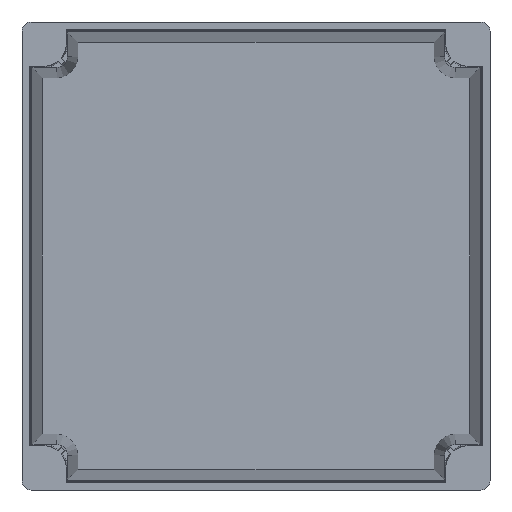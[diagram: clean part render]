
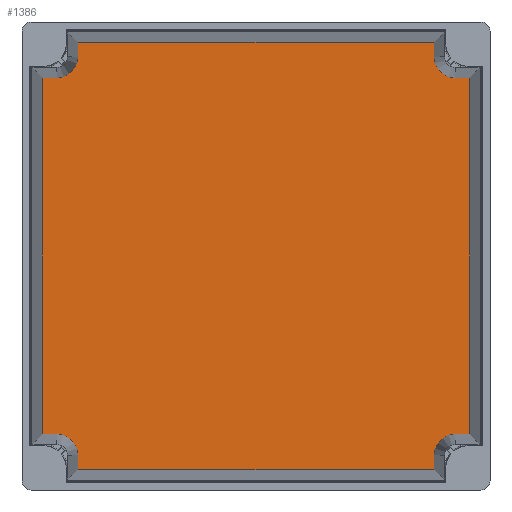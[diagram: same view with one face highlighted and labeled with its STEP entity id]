
A CAD part, front view. The second image highlights one B-rep face of the part: STEP entity #1386.
In plain terms, the highlighted planar face has unit normal (0, -1, 0).
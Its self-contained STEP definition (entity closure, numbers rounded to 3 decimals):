
#1315 = ORIENTED_EDGE ( 'NONE', *, *, #1316, .T. ) ;
#1316 = EDGE_CURVE ( 'NONE', #1400, #1335, #5064, .T. ) ;
#1335 = VERTEX_POINT ( 'NONE', #4300 ) ;
#1336 = ORIENTED_EDGE ( 'NONE', *, *, #1337, .T. ) ;
#1337 = EDGE_CURVE ( 'NONE', #1335, #7466, #4455, .T. ) ;
#1379 = EDGE_CURVE ( 'NONE', #1409, #1380, #4364, .T. ) ;
#1380 = VERTEX_POINT ( 'NONE', #4360 ) ;
#1381 = ORIENTED_EDGE ( 'NONE', *, *, #1382, .T. ) ;
#1382 = EDGE_CURVE ( 'NONE', #1380, #1400, #4359, .T. ) ;
#1386 = ADVANCED_FACE ( 'NONE', ( #4355 ), #4353, .F. ) ;
#1390 = VERTEX_POINT ( 'NONE', #4245 ) ;
#1391 = ORIENTED_EDGE ( 'NONE', *, *, #1429, .T. ) ;
#1392 = VERTEX_POINT ( 'NONE', #4244 ) ;
#1395 = ORIENTED_EDGE ( 'NONE', *, *, #1396, .T. ) ;
#1396 = EDGE_CURVE ( 'NONE', #1390, #1472, #4239, .T. ) ;
#1397 = ORIENTED_EDGE ( 'NONE', *, *, #1398, .T. ) ;
#1398 = EDGE_CURVE ( 'NONE', #1424, #1390, #4234, .T. ) ;
#1399 = EDGE_LOOP ( 'NONE', ( #1315, #1336, #1422, #1419, #1421, #1391, #1420, #1397, #1395, #1473, #1416, #1412, #1405, #1408, #1438, #1381 ) ) ;
#1400 = VERTEX_POINT ( 'NONE', #4230 ) ;
#1401 = EDGE_CURVE ( 'NONE', #1436, #1402, #4229, .T. ) ;
#1402 = VERTEX_POINT ( 'NONE', #4224 ) ;
#1405 = ORIENTED_EDGE ( 'NONE', *, *, #1406, .T. ) ;
#1406 = EDGE_CURVE ( 'NONE', #1414, #1407, #4296, .T. ) ;
#1407 = VERTEX_POINT ( 'NONE', #4292 ) ;
#1408 = ORIENTED_EDGE ( 'NONE', *, *, #1437, .T. ) ;
#1409 = VERTEX_POINT ( 'NONE', #4291 ) ;
#1410 = EDGE_CURVE ( 'NONE', #7466, #1411, #4290, .T. ) ;
#1411 = VERTEX_POINT ( 'NONE', #4286 ) ;
#1412 = ORIENTED_EDGE ( 'NONE', *, *, #1413, .T. ) ;
#1413 = EDGE_CURVE ( 'NONE', #1418, #1414, #4285, .T. ) ;
#1414 = VERTEX_POINT ( 'NONE', #4281 ) ;
#1415 = VERTEX_POINT ( 'NONE', #4280 ) ;
#1416 = ORIENTED_EDGE ( 'NONE', *, *, #1417, .T. ) ;
#1417 = EDGE_CURVE ( 'NONE', #1415, #1418, #4279, .T. ) ;
#1418 = VERTEX_POINT ( 'NONE', #4275 ) ;
#1419 = ORIENTED_EDGE ( 'NONE', *, *, #1435, .T. ) ;
#1420 = ORIENTED_EDGE ( 'NONE', *, *, #1423, .T. ) ;
#1421 = ORIENTED_EDGE ( 'NONE', *, *, #1401, .T. ) ;
#1422 = ORIENTED_EDGE ( 'NONE', *, *, #1410, .T. ) ;
#1423 = EDGE_CURVE ( 'NONE', #1392, #1424, #4274, .T. ) ;
#1424 = VERTEX_POINT ( 'NONE', #4270 ) ;
#1429 = EDGE_CURVE ( 'NONE', #1402, #1392, #4265, .T. ) ;
#1435 = EDGE_CURVE ( 'NONE', #1411, #1436, #4255, .T. ) ;
#1436 = VERTEX_POINT ( 'NONE', #4251 ) ;
#1437 = EDGE_CURVE ( 'NONE', #1407, #1409, #4428, .T. ) ;
#1438 = ORIENTED_EDGE ( 'NONE', *, *, #1379, .T. ) ;
#1472 = VERTEX_POINT ( 'NONE', #4376 ) ;
#1473 = ORIENTED_EDGE ( 'NONE', *, *, #1474, .T. ) ;
#1474 = EDGE_CURVE ( 'NONE', #1472, #1415, #4375, .T. ) ;
#3413 = CARTESIAN_POINT ( 'NONE',  ( 68.562, 99.8, 82.212 ) ) ;
#4223 = CARTESIAN_POINT ( 'NONE',  ( 76.634, 99.8, -76.634 ) ) ;
#4224 = CARTESIAN_POINT ( 'NONE',  ( -76.634, 99.8, 68.562 ) ) ;
#4225 = DIRECTION ( 'NONE',  ( 0., 0., 1. ) ) ;
#4226 = DIRECTION ( 'NONE',  ( 0., 1., 0. ) ) ;
#4227 = CARTESIAN_POINT ( 'NONE',  ( -76.634, 99.8, 76.634 ) ) ;
#4228 = AXIS2_PLACEMENT_3D ( 'NONE', #4227, #4226, #4225 ) ;
#4229 = CIRCLE ( 'NONE', #4228, 8.072 ) ;
#4230 = CARTESIAN_POINT ( 'NONE',  ( 76.634, 99.8, 68.562 ) ) ;
#4231 = DIRECTION ( 'NONE',  ( 1., 0., 0. ) ) ;
#4232 = VECTOR ( 'NONE', #4231, 1000. ) ;
#4233 = CARTESIAN_POINT ( 'NONE',  ( -86.179, 99.8, -68.562 ) ) ;
#4234 = LINE ( 'NONE', #4233, #4232 ) ;
#4235 = DIRECTION ( 'NONE',  ( 0., 0., 1. ) ) ;
#4236 = DIRECTION ( 'NONE',  ( 0., 1., 0. ) ) ;
#4237 = CARTESIAN_POINT ( 'NONE',  ( -76.634, 99.8, -76.634 ) ) ;
#4238 = AXIS2_PLACEMENT_3D ( 'NONE', #4237, #4236, #4235 ) ;
#4239 = CIRCLE ( 'NONE', #4238, 8.072 ) ;
#4244 = CARTESIAN_POINT ( 'NONE',  ( -82.212, 99.8, 68.562 ) ) ;
#4245 = CARTESIAN_POINT ( 'NONE',  ( -76.634, 99.8, -68.562 ) ) ;
#4251 = CARTESIAN_POINT ( 'NONE',  ( -68.562, 99.8, 76.634 ) ) ;
#4252 = DIRECTION ( 'NONE',  ( 0., 0., -1. ) ) ;
#4253 = VECTOR ( 'NONE', #4252, 1000. ) ;
#4254 = CARTESIAN_POINT ( 'NONE',  ( -68.562, 99.8, 76.634 ) ) ;
#4255 = LINE ( 'NONE', #4254, #4253 ) ;
#4262 = DIRECTION ( 'NONE',  ( -1., 0., 0. ) ) ;
#4263 = VECTOR ( 'NONE', #4262, 1000. ) ;
#4264 = CARTESIAN_POINT ( 'NONE',  ( -86.179, 99.8, 68.562 ) ) ;
#4265 = LINE ( 'NONE', #4264, #4263 ) ;
#4270 = CARTESIAN_POINT ( 'NONE',  ( -82.212, 99.8, -68.562 ) ) ;
#4271 = DIRECTION ( 'NONE',  ( 0., 0., -1. ) ) ;
#4272 = VECTOR ( 'NONE', #4271, 1000. ) ;
#4273 = CARTESIAN_POINT ( 'NONE',  ( -82.212, 99.8, -72.529 ) ) ;
#4274 = LINE ( 'NONE', #4273, #4272 ) ;
#4275 = CARTESIAN_POINT ( 'NONE',  ( 68.562, 99.8, -82.212 ) ) ;
#4276 = DIRECTION ( 'NONE',  ( 1., 0., 0. ) ) ;
#4277 = VECTOR ( 'NONE', #4276, 1000. ) ;
#4278 = CARTESIAN_POINT ( 'NONE',  ( 72.529, 99.8, -82.212 ) ) ;
#4279 = LINE ( 'NONE', #4278, #4277 ) ;
#4280 = CARTESIAN_POINT ( 'NONE',  ( -68.562, 99.8, -82.212 ) ) ;
#4281 = CARTESIAN_POINT ( 'NONE',  ( 68.562, 99.8, -76.634 ) ) ;
#4282 = DIRECTION ( 'NONE',  ( 0., 0., 1. ) ) ;
#4283 = VECTOR ( 'NONE', #4282, 1000. ) ;
#4284 = CARTESIAN_POINT ( 'NONE',  ( 68.562, 99.8, -76.634 ) ) ;
#4285 = LINE ( 'NONE', #4284, #4283 ) ;
#4286 = CARTESIAN_POINT ( 'NONE',  ( -68.562, 99.8, 82.212 ) ) ;
#4287 = DIRECTION ( 'NONE',  ( -1., 0., 0. ) ) ;
#4288 = VECTOR ( 'NONE', #4287, 1000. ) ;
#4289 = CARTESIAN_POINT ( 'NONE',  ( 72.529, 99.8, 82.212 ) ) ;
#4290 = LINE ( 'NONE', #4289, #4288 ) ;
#4291 = CARTESIAN_POINT ( 'NONE',  ( 82.212, 99.8, -68.562 ) ) ;
#4292 = CARTESIAN_POINT ( 'NONE',  ( 76.634, 99.8, -68.562 ) ) ;
#4293 = DIRECTION ( 'NONE',  ( 0., 0., 1. ) ) ;
#4294 = DIRECTION ( 'NONE',  ( 0., 1., 0. ) ) ;
#4295 = AXIS2_PLACEMENT_3D ( 'NONE', #4223, #4294, #4293 ) ;
#4296 = CIRCLE ( 'NONE', #4295, 8.072 ) ;
#4300 = CARTESIAN_POINT ( 'NONE',  ( 68.562, 99.8, 76.634 ) ) ;
#4349 = DIRECTION ( 'NONE',  ( 0., 0., 1. ) ) ;
#4350 = DIRECTION ( 'NONE',  ( 0., 1., 0. ) ) ;
#4351 = CARTESIAN_POINT ( 'NONE',  ( -81.75, 99.8, -81.75 ) ) ;
#4352 = AXIS2_PLACEMENT_3D ( 'NONE', #4351, #4350, #4349 ) ;
#4353 = PLANE ( 'NONE',  #4352 ) ;
#4355 = FACE_OUTER_BOUND ( 'NONE', #1399, .T. ) ;
#4356 = DIRECTION ( 'NONE',  ( -1., 0., 0. ) ) ;
#4357 = VECTOR ( 'NONE', #4356, 1000. ) ;
#4358 = CARTESIAN_POINT ( 'NONE',  ( 86.179, 99.8, 68.562 ) ) ;
#4359 = LINE ( 'NONE', #4358, #4357 ) ;
#4360 = CARTESIAN_POINT ( 'NONE',  ( 82.212, 99.8, 68.562 ) ) ;
#4361 = DIRECTION ( 'NONE',  ( 0., 0., 1. ) ) ;
#4362 = VECTOR ( 'NONE', #4361, 1000. ) ;
#4363 = CARTESIAN_POINT ( 'NONE',  ( 82.212, 99.8, -72.529 ) ) ;
#4364 = LINE ( 'NONE', #4363, #4362 ) ;
#4372 = DIRECTION ( 'NONE',  ( 0., 0., -1. ) ) ;
#4373 = VECTOR ( 'NONE', #4372, 1000. ) ;
#4374 = CARTESIAN_POINT ( 'NONE',  ( -68.562, 99.8, -76.634 ) ) ;
#4375 = LINE ( 'NONE', #4374, #4373 ) ;
#4376 = CARTESIAN_POINT ( 'NONE',  ( -68.562, 99.8, -76.634 ) ) ;
#4425 = DIRECTION ( 'NONE',  ( 1., 0., 0. ) ) ;
#4426 = VECTOR ( 'NONE', #4425, 1000. ) ;
#4427 = CARTESIAN_POINT ( 'NONE',  ( 86.179, 99.8, -68.562 ) ) ;
#4428 = LINE ( 'NONE', #4427, #4426 ) ;
#4452 = DIRECTION ( 'NONE',  ( 0., 0., 1. ) ) ;
#4453 = VECTOR ( 'NONE', #4452, 1000. ) ;
#4454 = CARTESIAN_POINT ( 'NONE',  ( 68.562, 99.8, 76.634 ) ) ;
#4455 = LINE ( 'NONE', #4454, #4453 ) ;
#5063 = AXIS2_PLACEMENT_3D ( 'NONE', #5239, #5238, #5237 ) ;
#5064 = CIRCLE ( 'NONE', #5063, 8.072 ) ;
#5237 = DIRECTION ( 'NONE',  ( 0., 0., 1. ) ) ;
#5238 = DIRECTION ( 'NONE',  ( 0., 1., 0. ) ) ;
#5239 = CARTESIAN_POINT ( 'NONE',  ( 76.634, 99.8, 76.634 ) ) ;
#7466 = VERTEX_POINT ( 'NONE', #3413 ) ;
